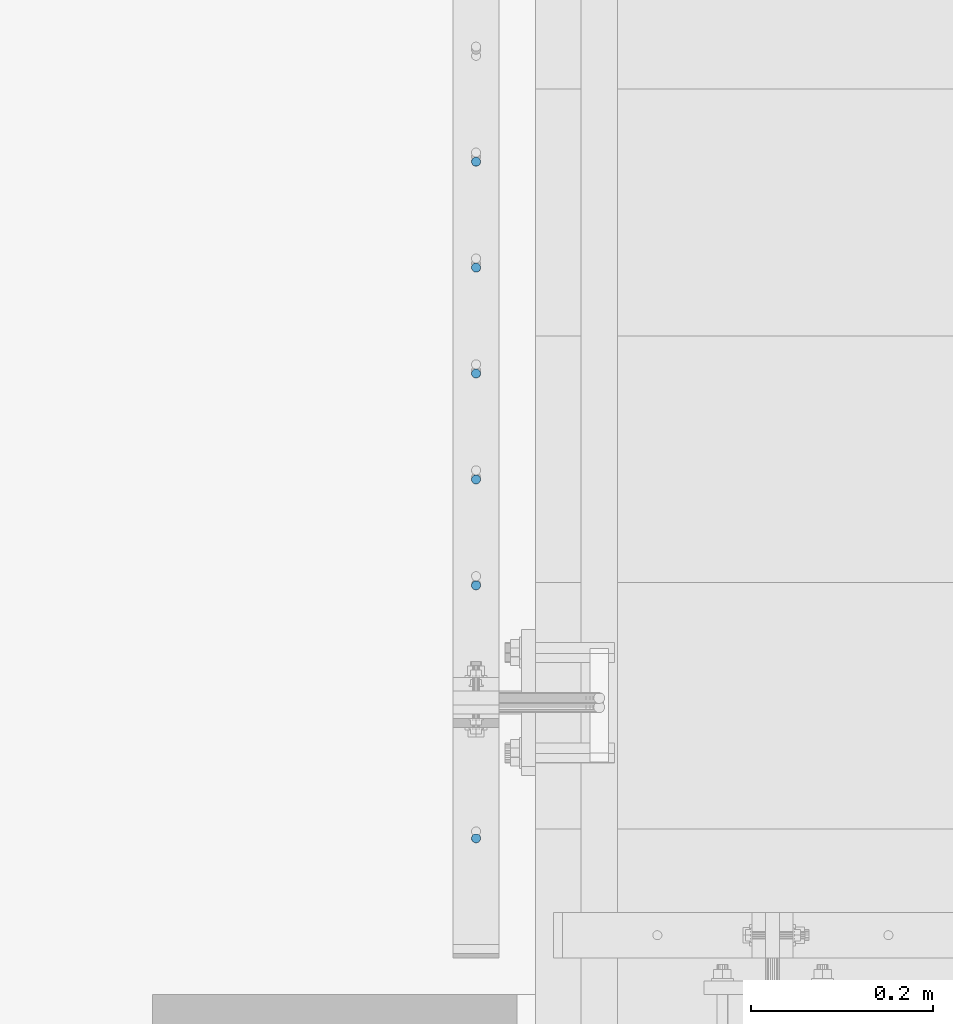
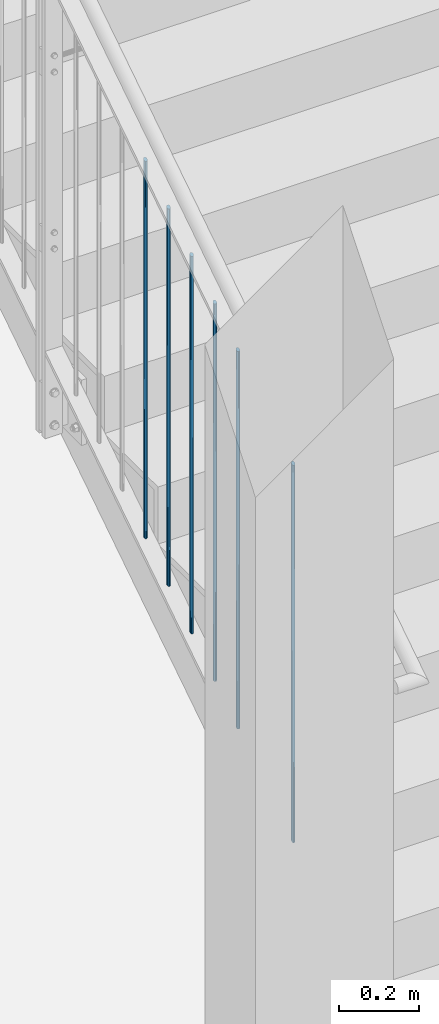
# One storey, part 4 of 296: 6 columns.
"""IFC2X3 building model written with IfcOpenShell, lengths in millimetres."""

from ifc_helpers import new_model, entity, si_unit, converted_unit, frame, origin, origin_with_axes, origin_2d, place, context, project, spatial, circle, extrude, clip, halfspace, material, element, save


model = new_model("IFC2X3")

# Units and contexts
model_context = context("Model", 3, precision=1e-09, world=origin_with_axes())
ifc_project = project(units=[si_unit("LENGTHUNIT", "METRE", prefix="MILLI"), si_unit("AREAUNIT", "SQUARE_METRE"), si_unit("VOLUMEUNIT", "CUBIC_METRE"), converted_unit("PLANEANGLEUNIT", "DEGREE", entity("IfcPlaneAngleMeasure", 0.01745329), si_unit("PLANEANGLEUNIT", "RADIAN"), dimensions=[0, 0, 0, 0, 0, 0, 0])], contexts=[model_context])

# Site, building, storey
site_placement = place(None, origin_with_axes())
site = spatial("IfcSite", under=ifc_project, at=site_placement, Name="TZD-S?d | Treppenhausgel?nder", CompositionType="ELEMENT")
building_placement = place(site_placement, origin_with_axes())
building = spatial("IfcBuilding", under=site, at=building_placement, Name="Struktur 1", CompositionType="ELEMENT")
storey_placement = place(building_placement, origin_with_axes())
storey = spatial("IfcBuildingStorey", under=building, at=storey_placement, Name="Default Storey", CompositionType="ELEMENT", Elevation=0.0)

# Columns
ifc_material = material(Name="S235JR")
column_1_placement = place(None, frame((-45.0, -3603.75, 454.490975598), z_axis=(0.0, 0.0, 1.0), x_axis=(0.0, 1.0, 0.0)))
element("IfcColumn", 1, at=column_1_placement, inside=storey, material=ifc_material, Name="-", ObjectType="-", context=model_context, shape_type="Clipping", body=[
    clip(clip(extrude(circle(Radius=5.0, at=origin_2d()), origin(), (0.0, 0.0, 1.0), 1184.937475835), halfspace(frame((2322.171919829, -45.0, 1520.928281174), z_axis=(-0.544258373, 0.0, 0.83891765), x_axis=(0.0, -1.0, 0.0)), True)), halfspace(frame((1794.284388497, -45.0, 2334.611981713), z_axis=(0.544258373, 0.0, -0.83891765), x_axis=(0.0, 1.0, 0.0)), True)),
])
column_2_placement = place(None, frame((-45.0, -2861.9444444, 935.746656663), z_axis=(0.0, 0.0, 1.0), x_axis=(0.0, 1.0, 0.0)))
element("IfcColumn", 2, at=column_2_placement, inside=storey, material=ifc_material, Name="-", ObjectType="-", context=model_context, shape_type="Clipping", body=[
    clip(clip(extrude(circle(Radius=5.0, at=origin_2d()), origin(), (0.0, 0.0, 1.0), 1184.937475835), halfspace(frame((1580.366364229, -45.0, 1039.67260011), z_axis=(-0.544258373, 0.0, 0.83891765), x_axis=(0.0, -1.0, 0.0)), True)), halfspace(frame((1052.478832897, -45.0, 1853.356300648), z_axis=(0.544258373, 0.0, -0.83891765), x_axis=(0.0, 1.0, 0.0)), True)),
])
column_3_placement = place(None, frame((-45.0, -2978.0555555, 860.418113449), z_axis=(0.0, 0.0, 1.0), x_axis=(0.0, 1.0, 0.0)))
element("IfcColumn", 3, at=column_3_placement, inside=storey, material=ifc_material, Name="-", ObjectType="-", context=model_context, shape_type="Clipping", body=[
    clip(clip(extrude(circle(Radius=5.0, at=origin_2d()), origin(), (0.0, 0.0, 1.0), 1184.937475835), halfspace(frame((1168.589943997, -45.0, 1928.684843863), z_axis=(0.544258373, 0.0, -0.83891765), x_axis=(0.0, 1.0, 0.0)), True)), halfspace(frame((1696.477475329, -45.0, 1115.001143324), z_axis=(-0.544258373, 0.0, 0.83891765), x_axis=(0.0, -1.0, 0.0)), True)),
])
column_4_placement = place(None, frame((-45.0, -3094.1666666, 785.089570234), z_axis=(0.0, 0.0, 1.0), x_axis=(0.0, 1.0, 0.0)))
element("IfcColumn", 4, at=column_4_placement, inside=storey, material=ifc_material, Name="-", ObjectType="-", context=model_context, shape_type="Clipping", body=[
    clip(clip(extrude(circle(Radius=5.0, at=origin_2d()), origin(), (0.0, 0.0, 1.0), 1184.937475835), halfspace(frame((1812.588586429, -45.0, 1190.329686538), z_axis=(-0.544258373, 0.0, 0.83891765), x_axis=(0.0, -1.0, 0.0)), True)), halfspace(frame((1284.701055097, -45.0, 2004.013387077), z_axis=(0.544258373, 0.0, -0.83891765), x_axis=(0.0, 1.0, 0.0)), True)),
])
column_5_placement = place(None, frame((-45.0, -3210.2777777, 709.76102702), z_axis=(0.0, 0.0, 1.0), x_axis=(0.0, 1.0, 0.0)))
element("IfcColumn", 5, at=column_5_placement, inside=storey, material=ifc_material, Name="-", ObjectType="-", context=model_context, shape_type="Clipping", body=[
    clip(clip(extrude(circle(Radius=5.0, at=origin_2d()), origin(), (0.0, 0.0, 1.0), 1184.937475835), halfspace(frame((1928.699697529, -45.0, 1265.658229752), z_axis=(-0.544258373, 0.0, 0.83891765), x_axis=(0.0, -1.0, 0.0)), True)), halfspace(frame((1400.812166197, -45.0, 2079.341930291), z_axis=(0.544258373, 0.0, -0.83891765), x_axis=(0.0, 1.0, 0.0)), True)),
])
column_6_placement = place(None, frame((-45.0, -3326.3888888, 634.432483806), z_axis=(0.0, 0.0, 1.0), x_axis=(0.0, 1.0, 0.0)))
element("IfcColumn", 6, at=column_6_placement, inside=storey, material=ifc_material, Name="-", ObjectType="-", context=model_context, shape_type="Clipping", body=[
    clip(clip(extrude(circle(Radius=5.0, at=origin_2d()), origin(), (0.0, 0.0, 1.0), 1184.937475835), halfspace(frame((1516.923277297, -45.0, 2154.670473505), z_axis=(0.544258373, 0.0, -0.83891765), x_axis=(0.0, 1.0, 0.0)), True)), halfspace(frame((2044.810808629, -45.0, 1340.986772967), z_axis=(-0.544258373, 0.0, 0.83891765), x_axis=(0.0, -1.0, 0.0)), True)),
])

save(model, "model.ifc")
